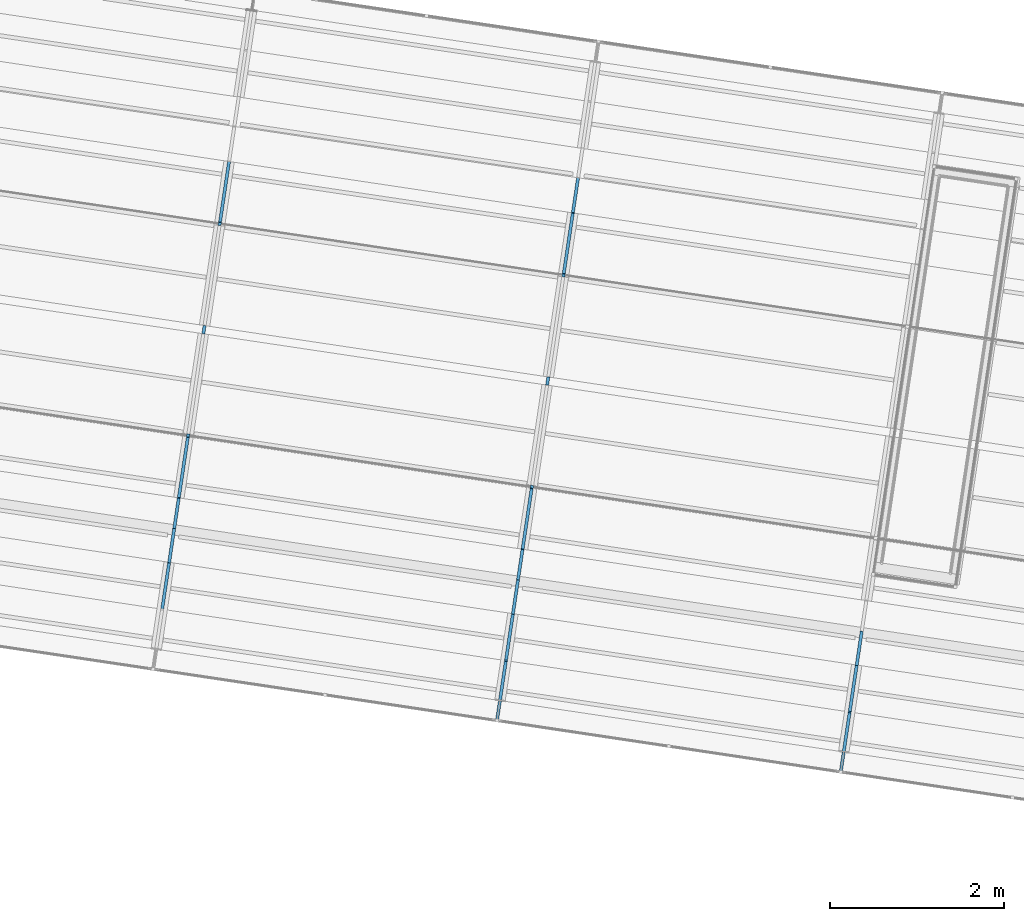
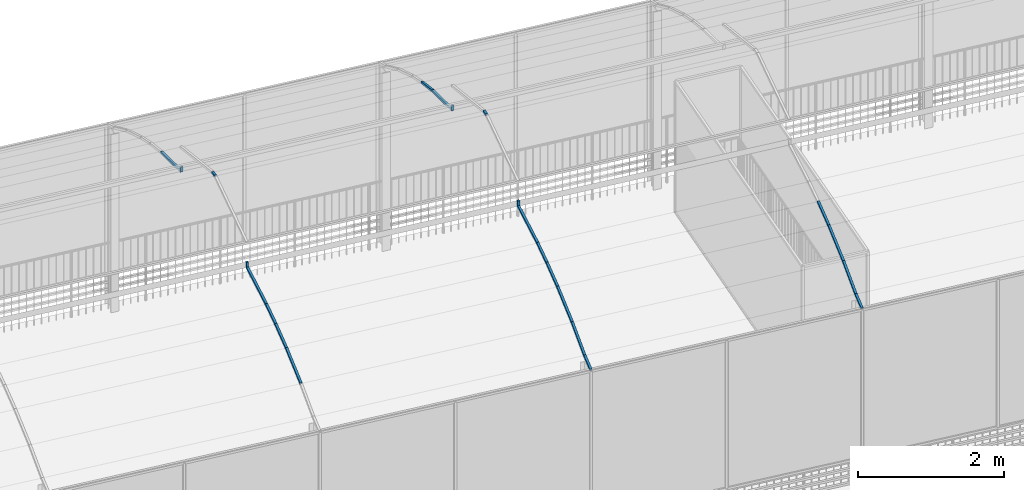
# One storey, part 21 of 34: 23 members, 1 element without a shape of its own.
"""IFC4 building model written with IfcOpenShell, lengths in metres."""

from ifc_helpers import new_model, si_unit, direction, frame, origin_with_axes, place, context, subcontext, project, spatial, rectangle, extrude, material, material_profile, profile_set, profile_usage, type_object, element, aggregate, save


model = new_model("IFC4")

# Units and contexts
model_context = context("Model", 3, precision=1e-05, world=origin_with_axes(), true_north=direction((0.0, 1.0)))
body_context = subcontext(model_context, "Body", "Model", "MODEL_VIEW")
ifc_project = project(units=[si_unit("AREAUNIT", "SQUARE_METRE"), si_unit("VOLUMEUNIT", "CUBIC_METRE"), si_unit("LENGTHUNIT", "METRE")], contexts=[model_context])

# Site, building, storey
site_placement = place(None, origin_with_axes())
site = spatial("IfcSite", under=ifc_project, at=site_placement, Name="Lares · Rua das Mercês · artigo 4771")
building_placement = place(site_placement, frame((15.0, 9.7, 14.65), z_axis=(0.0, 0.0, 1.0), x_axis=(0.989015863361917, -0.147809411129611, 0.0)))
building = spatial("IfcBuilding", under=site, at=building_placement, Name="Casa Sobreposta")
storey_placement = place(building_placement, frame((0.0, 0.0, 3.24), z_axis=(0.0, 0.0, 1.0), x_axis=(1.0, 0.0, 0.0)))
storey = spatial("IfcBuildingStorey", under=building, at=storey_placement, Name="01 · Jardim de inverno", Elevation=17.89)

# Roof, members
ifc_material_1 = material(Name="Vidro / Normalglas", Category="glass")
roof_placement = place(storey_placement, frame((0.0, 0.0, -3.24), z_axis=(0.0, 0.0, 1.0), x_axis=(1.0, 0.0, 0.0)))
roof = element("IfcRoof", 1, at=roof_placement, inside=storey, material=ifc_material_1, Name="Cobertura translúcida da estufa", PredefinedType="BARREL_ROOF")
ifc_material_2 = material(Name="Aço pintado / Stahl lackiert", Category="steel")
ifc_material_profile = material_profile(ifc_material_2, rectangle(XDim=0.035, YDim=0.035))
ifc_profile_set = profile_set([ifc_material_profile], Name="R0.035")
ifc_profile_usage_1 = profile_usage(ifc_profile_set)
member_type = type_object("IfcMemberType", Name="R0.035 / steel", PredefinedType="NOTDEFINED", material=ifc_profile_set)
member_1_placement = place(roof_placement, frame((20.0, -1.5, 6.23430000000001), z_axis=(0.0, 0.932991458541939, 0.35989851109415), x_axis=(1.0, 0.0, 0.0)))
member_1 = element("IfcMember", 2, at=member_1_placement, type_object=member_type, material=ifc_profile_usage_1, Name="Arco estufa 20/0", context=body_context, shape_type="SweptSolid", body=[
    extrude(rectangle(XDim=0.035, YDim=0.035), origin_with_axes(), (0.0, 0.0, 1.0), 0.249032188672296),
])
ifc_profile_usage_2 = profile_usage(ifc_profile_set)
member_2_placement = place(roof_placement, frame((24.0, -1.5, 6.23430000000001), z_axis=(0.0, 0.932991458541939, 0.35989851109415), x_axis=(1.0, 0.0, 0.0)))
member_2 = element("IfcMember", 3, at=member_2_placement, type_object=member_type, material=ifc_profile_usage_2, Name="Arco estufa 24/0", context=body_context, shape_type="SweptSolid", body=[
    extrude(rectangle(XDim=0.035, YDim=0.035), origin_with_axes(), (0.0, 0.0, 1.0), 0.249032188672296),
])
ifc_profile_usage_3 = profile_usage(ifc_profile_set)
member_3_placement = place(roof_placement, frame((20.0, -1.26765509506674, 6.32392631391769), z_axis=(0.0, 0.878851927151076, 0.477094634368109), x_axis=(1.0, 0.0, 0.0)))
member_3 = element("IfcMember", 4, at=member_3_placement, type_object=member_type, material=ifc_profile_usage_3, Name="Arco estufa 20/1", context=body_context, shape_type="SweptSolid", body=[
    extrude(rectangle(XDim=0.035, YDim=0.035), origin_with_axes(), (0.0, 0.0, 1.0), 0.52863528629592),
])
ifc_profile_usage_4 = profile_usage(ifc_profile_set)
member_4_placement = place(roof_placement, frame((24.0, -1.26765509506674, 6.32392631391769), z_axis=(0.0, 0.878851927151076, 0.477094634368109), x_axis=(1.0, 0.0, 0.0)))
member_4 = element("IfcMember", 5, at=member_4_placement, type_object=member_type, material=ifc_profile_usage_4, Name="Arco estufa 24/1", context=body_context, shape_type="SweptSolid", body=[
    extrude(rectangle(XDim=0.035, YDim=0.035), origin_with_axes(), (0.0, 0.0, 1.0), 0.52863528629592),
])
ifc_profile_usage_5 = profile_usage(ifc_profile_set)
member_5_placement = place(roof_placement, frame((16.0, -0.803062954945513, 6.57613537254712), z_axis=(0.0, 0.915885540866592, 0.401439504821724), x_axis=(1.0, 0.0, 0.0)))
member_5 = element("IfcMember", 6, at=member_5_placement, type_object=member_type, material=ifc_profile_usage_5, Name="Arco estufa 16/2", context=body_context, shape_type="SweptSolid", body=[
    extrude(rectangle(XDim=0.035, YDim=0.035), origin_with_axes(), (0.0, 0.0, 1.0), 0.596771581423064),
])
ifc_profile_usage_6 = profile_usage(ifc_profile_set)
member_6_placement = place(roof_placement, frame((20.0, -0.803062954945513, 6.57613537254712), z_axis=(0.0, 0.915885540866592, 0.401439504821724), x_axis=(1.0, 0.0, 0.0)))
member_6 = element("IfcMember", 7, at=member_6_placement, type_object=member_type, material=ifc_profile_usage_6, Name="Arco estufa 20/2", context=body_context, shape_type="SweptSolid", body=[
    extrude(rectangle(XDim=0.035, YDim=0.035), origin_with_axes(), (0.0, 0.0, 1.0), 0.596771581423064),
])
ifc_profile_usage_7 = profile_usage(ifc_profile_set)
member_7_placement = place(roof_placement, frame((24.0, -0.803062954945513, 6.57613537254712), z_axis=(0.0, 0.915885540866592, 0.401439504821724), x_axis=(1.0, 0.0, 0.0)))
member_7 = element("IfcMember", 8, at=member_7_placement, type_object=member_type, material=ifc_profile_usage_7, Name="Arco estufa 24/2", context=body_context, shape_type="SweptSolid", body=[
    extrude(rectangle(XDim=0.035, YDim=0.035), origin_with_axes(), (0.0, 0.0, 1.0), 0.596771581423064),
])
ifc_profile_usage_8 = profile_usage(ifc_profile_set)
member_8_placement = place(roof_placement, frame((16.0, -0.256488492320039, 6.81570306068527), z_axis=(0.0, 0.942820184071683, 0.333301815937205), x_axis=(1.0, 0.0, 0.0)))
member_8 = element("IfcMember", 9, at=member_8_placement, type_object=member_type, material=ifc_profile_usage_8, Name="Arco estufa 16/3", context=body_context, shape_type="SweptSolid", body=[
    extrude(rectangle(XDim=0.035, YDim=0.035), origin_with_axes(), (0.0, 0.0, 1.0), 0.423025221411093),
])
ifc_profile_usage_9 = profile_usage(ifc_profile_set)
member_9_placement = place(roof_placement, frame((20.0, -0.256488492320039, 6.81570306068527), z_axis=(0.0, 0.942820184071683, 0.333301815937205), x_axis=(1.0, 0.0, 0.0)))
member_9 = element("IfcMember", 10, at=member_9_placement, type_object=member_type, material=ifc_profile_usage_9, Name="Arco estufa 20/3", context=body_context, shape_type="SweptSolid", body=[
    extrude(rectangle(XDim=0.035, YDim=0.035), origin_with_axes(), (0.0, 0.0, 1.0), 0.423025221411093),
])
ifc_profile_usage_10 = profile_usage(ifc_profile_set)
member_10_placement = place(roof_placement, frame((24.0, -0.256488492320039, 6.81570306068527), z_axis=(0.0, 0.942820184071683, 0.333301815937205), x_axis=(1.0, 0.0, 0.0)))
member_10 = element("IfcMember", 11, at=member_10_placement, type_object=member_type, material=ifc_profile_usage_10, Name="Arco estufa 24/3", context=body_context, shape_type="SweptSolid", body=[
    extrude(rectangle(XDim=0.035, YDim=0.035), origin_with_axes(), (0.0, 0.0, 1.0), 0.423025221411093),
])
ifc_profile_usage_11 = profile_usage(ifc_profile_set)
member_11_placement = place(roof_placement, frame((16.0, 0.142348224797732, 6.95669813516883), z_axis=(0.0, 0.959692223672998, 0.281053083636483), x_axis=(1.0, 0.0, 0.0)))
member_11 = element("IfcMember", 12, at=member_11_placement, type_object=member_type, material=ifc_profile_usage_11, Name="Arco estufa 16/4", context=body_context, shape_type="SweptSolid", body=[
    extrude(rectangle(XDim=0.035, YDim=0.035), origin_with_axes(), (0.0, 0.0, 1.0), 0.365557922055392),
])
ifc_profile_usage_12 = profile_usage(ifc_profile_set)
member_12_placement = place(roof_placement, frame((20.0, 0.142348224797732, 6.95669813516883), z_axis=(0.0, 0.959692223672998, 0.281053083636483), x_axis=(1.0, 0.0, 0.0)))
member_12 = element("IfcMember", 13, at=member_12_placement, type_object=member_type, material=ifc_profile_usage_12, Name="Arco estufa 20/4", context=body_context, shape_type="SweptSolid", body=[
    extrude(rectangle(XDim=0.035, YDim=0.035), origin_with_axes(), (0.0, 0.0, 1.0), 0.365557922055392),
])
ifc_profile_usage_13 = profile_usage(ifc_profile_set)
member_13_placement = place(roof_placement, frame((16.0, 0.493171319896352, 7.05943931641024), z_axis=(0.0, 0.977995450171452, 0.208626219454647), x_axis=(1.0, 0.0, 0.0)))
member_13 = element("IfcMember", 14, at=member_13_placement, type_object=member_type, material=ifc_profile_usage_13, Name="Arco estufa 16/5", context=body_context, shape_type="SweptSolid", body=[
    extrude(rectangle(XDim=0.035, YDim=0.035), origin_with_axes(), (0.0, 0.0, 1.0), 0.737465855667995),
])
ifc_profile_usage_14 = profile_usage(ifc_profile_set)
member_14_placement = place(roof_placement, frame((20.0, 0.493171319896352, 7.05943931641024), z_axis=(0.0, 0.977995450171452, 0.208626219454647), x_axis=(1.0, 0.0, 0.0)))
member_14 = element("IfcMember", 15, at=member_14_placement, type_object=member_type, material=ifc_profile_usage_14, Name="Arco estufa 20/5", context=body_context, shape_type="SweptSolid", body=[
    extrude(rectangle(XDim=0.035, YDim=0.035), origin_with_axes(), (0.0, 0.0, 1.0), 0.737465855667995),
])
ifc_profile_usage_15 = profile_usage(ifc_profile_set)
member_15_placement = place(roof_placement, frame((16.0, 1.21440957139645, 7.21329402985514), z_axis=(0.0, 0.0686229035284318, 0.997642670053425), x_axis=(1.0, 0.0, 0.0)))
member_15 = element("IfcMember", 16, at=member_15_placement, type_object=member_type, material=ifc_profile_usage_15, Name="Arco estufa 16/6", context=body_context, shape_type="SweptSolid", body=[
    extrude(rectangle(XDim=0.035, YDim=0.035), origin_with_axes(), (0.0, 0.0, 1.0), 0.0875893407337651),
])
ifc_profile_usage_16 = profile_usage(ifc_profile_set)
member_16_placement = place(roof_placement, frame((20.0, 1.21440957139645, 7.21329402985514), z_axis=(0.0, 0.0686229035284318, 0.997642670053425), x_axis=(1.0, 0.0, 0.0)))
member_16 = element("IfcMember", 17, at=member_16_placement, type_object=member_type, material=ifc_profile_usage_16, Name="Arco estufa 20/6", context=body_context, shape_type="SweptSolid", body=[
    extrude(rectangle(XDim=0.035, YDim=0.035), origin_with_axes(), (0.0, 0.0, 1.0), 0.0875893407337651),
])
ifc_profile_usage_17 = profile_usage(ifc_profile_set)
member_17_placement = place(roof_placement, frame((16.0, 2.40274082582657, 7.96518238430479), z_axis=(0.0, 1.0, 0.0), x_axis=(1.0, 0.0, 0.0)))
member_17 = element("IfcMember", 18, at=member_17_placement, type_object=member_type, material=ifc_profile_usage_17, Name="Arco estufa 16/8", context=body_context, shape_type="SweptSolid", body=[
    extrude(rectangle(XDim=0.035, YDim=0.035), origin_with_axes(), (0.0, 0.0, 1.0), 0.0949594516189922),
])
ifc_profile_usage_18 = profile_usage(ifc_profile_set)
member_18_placement = place(roof_placement, frame((20.0, 2.40274082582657, 7.96518238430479), z_axis=(0.0, 1.0, 0.0), x_axis=(1.0, 0.0, 0.0)))
member_18 = element("IfcMember", 19, at=member_18_placement, type_object=member_type, material=ifc_profile_usage_18, Name="Arco estufa 20/8", context=body_context, shape_type="SweptSolid", body=[
    extrude(rectangle(XDim=0.035, YDim=0.035), origin_with_axes(), (0.0, 0.0, 1.0), 0.0949594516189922),
])
ifc_profile_usage_19 = profile_usage(ifc_profile_set)
member_19_placement = place(roof_placement, frame((16.0, 3.68002089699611, 7.30067689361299), z_axis=(0.0, 0.0651953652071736, -0.997872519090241), x_axis=(1.0, 0.0, 0.0)))
member_19 = element("IfcMember", 20, at=member_19_placement, type_object=member_type, material=ifc_profile_usage_19, Name="Arco estufa 16/10", context=body_context, shape_type="SweptSolid", body=[
    extrude(rectangle(XDim=0.035, YDim=0.035), origin_with_axes(), (0.0, 0.0, 1.0), 0.0875840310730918),
])
ifc_profile_usage_20 = profile_usage(ifc_profile_set)
member_20_placement = place(roof_placement, frame((20.0, 3.68002089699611, 7.30067689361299), z_axis=(0.0, 0.0651953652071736, -0.997872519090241), x_axis=(1.0, 0.0, 0.0)))
member_20 = element("IfcMember", 21, at=member_20_placement, type_object=member_type, material=ifc_profile_usage_20, Name="Arco estufa 20/10", context=body_context, shape_type="SweptSolid", body=[
    extrude(rectangle(XDim=0.035, YDim=0.035), origin_with_axes(), (0.0, 0.0, 1.0), 0.0875840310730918),
])
ifc_profile_usage_21 = profile_usage(ifc_profile_set)
member_21_placement = place(roof_placement, frame((16.0, 3.68573096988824, 7.21327919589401), z_axis=(0.0, 0.977996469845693, -0.208621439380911), x_axis=(1.0, 0.0, 0.0)))
member_21 = element("IfcMember", 22, at=member_21_placement, type_object=member_type, material=ifc_profile_usage_21, Name="Arco estufa 16/11", context=body_context, shape_type="SweptSolid", body=[
    extrude(rectangle(XDim=0.035, YDim=0.035), origin_with_axes(), (0.0, 0.0, 1.0), 0.737400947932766),
])
ifc_profile_usage_22 = profile_usage(ifc_profile_set)
member_22_placement = place(roof_placement, frame((20.0, 3.68573096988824, 7.21327919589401), z_axis=(0.0, 0.977996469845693, -0.208621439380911), x_axis=(1.0, 0.0, 0.0)))
member_22 = element("IfcMember", 23, at=member_22_placement, type_object=member_type, material=ifc_profile_usage_22, Name="Arco estufa 20/11", context=body_context, shape_type="SweptSolid", body=[
    extrude(rectangle(XDim=0.035, YDim=0.035), origin_with_axes(), (0.0, 0.0, 1.0), 0.737400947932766),
])
ifc_profile_usage_23 = profile_usage(ifc_profile_set)
member_23_placement = place(roof_placement, frame((20.0, 4.40690649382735, 7.05944154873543), z_axis=(0.0, 0.958508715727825, -0.285063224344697), x_axis=(1.0, 0.0, 0.0)))
member_23 = element("IfcMember", 24, at=member_23_placement, type_object=member_type, material=ifc_profile_usage_23, Name="Arco estufa 20/12", context=body_context, shape_type="SweptSolid", body=[
    extrude(rectangle(XDim=0.035, YDim=0.035), origin_with_axes(), (0.0, 0.0, 1.0), 0.426177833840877),
])
aggregate(roof, [member_1, member_2, member_3, member_4, member_5, member_6, member_7, member_8, member_9, member_10, member_11, member_12, member_13, member_14, member_15, member_16, member_17, member_18, member_19, member_20, member_21, member_22, member_23])

save(model, "model.ifc")
